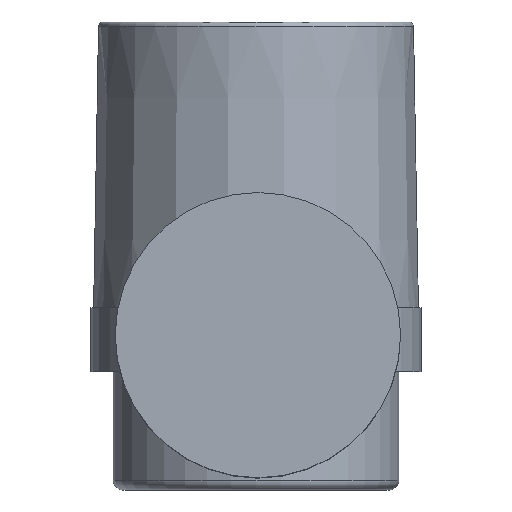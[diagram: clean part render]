
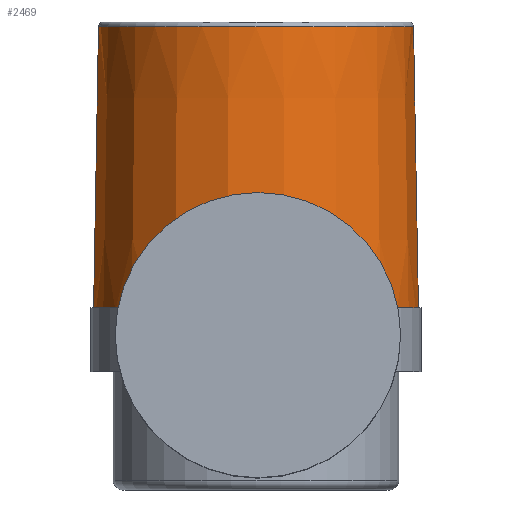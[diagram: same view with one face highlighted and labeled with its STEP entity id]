
A CAD part, front view. The second image highlights one B-rep face of the part: STEP entity #2469.
In plain terms, the highlighted conical face has half-angle 1 degrees and reference radius 33 mm.
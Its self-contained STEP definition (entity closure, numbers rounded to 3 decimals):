
#190 = DIRECTION ( 'NONE',  ( -0.017, 0., -1. ) ) ;
#266 = DIRECTION ( 'NONE',  ( 1., 0., 0. ) ) ;
#317 = LINE ( 'NONE', #649, #2215 ) ;
#428 = ORIENTED_EDGE ( 'NONE', *, *, #456, .T. ) ;
#432 = CONICAL_SURFACE ( 'NONE', #819, 33., 0.017 ) ;
#456 = EDGE_CURVE ( 'NONE', #1311, #1636, #3346, .T. ) ;
#649 = CARTESIAN_POINT ( 'NONE',  ( 33., 74.161, 5.5 ) ) ;
#819 = AXIS2_PLACEMENT_3D ( 'NONE', #2339, #1817, #266 ) ;
#851 = CIRCLE ( 'NONE', #2529, 32.975 ) ;
#861 = EDGE_CURVE ( 'NONE', #1636, #2636, #851, .T. ) ;
#947 = CARTESIAN_POINT ( 'NONE',  ( 31.97, 74.161, 64.517 ) ) ;
#1009 = CARTESIAN_POINT ( 'NONE',  ( -33., 74.161, 5.5 ) ) ;
#1030 = FACE_OUTER_BOUND ( 'NONE', #1686, .T. ) ;
#1038 = ORIENTED_EDGE ( 'NONE', *, *, #1149, .T. ) ;
#1082 = VECTOR ( 'NONE', #190, 1000. ) ;
#1126 = CARTESIAN_POINT ( 'NONE',  ( -31.97, 74.161, 64.517 ) ) ;
#1149 = EDGE_CURVE ( 'NONE', #1940, #1311, #1990, .T. ) ;
#1171 = CARTESIAN_POINT ( 'NONE',  ( 0., 74.161, 64.517 ) ) ;
#1311 = VERTEX_POINT ( 'NONE', #1126 ) ;
#1392 = DIRECTION ( 'NONE',  ( 0., 0., -1. ) ) ;
#1463 = DIRECTION ( 'NONE',  ( 0., 0., 1. ) ) ;
#1498 = CARTESIAN_POINT ( 'NONE',  ( -32.975, 74.161, 6.949 ) ) ;
#1533 = CARTESIAN_POINT ( 'NONE',  ( 0., 74.161, 6.949 ) ) ;
#1636 = VERTEX_POINT ( 'NONE', #1498 ) ;
#1686 = EDGE_LOOP ( 'NONE', ( #1038, #428, #2175, #2403 ) ) ;
#1817 = DIRECTION ( 'NONE',  ( 0., 0., -1. ) ) ;
#1917 = DIRECTION ( 'NONE',  ( 0.017, 0., -1. ) ) ;
#1940 = VERTEX_POINT ( 'NONE', #947 ) ;
#1990 = CIRCLE ( 'NONE', #3083, 31.97 ) ;
#2174 = DIRECTION ( 'NONE',  ( -1., 0., 0. ) ) ;
#2175 = ORIENTED_EDGE ( 'NONE', *, *, #861, .T. ) ;
#2215 = VECTOR ( 'NONE', #1917, 1000. ) ;
#2339 = CARTESIAN_POINT ( 'NONE',  ( 0., 74.161, 5.5 ) ) ;
#2403 = ORIENTED_EDGE ( 'NONE', *, *, #2578, .F. ) ;
#2469 = ADVANCED_FACE ( 'NONE', ( #1030 ), #432, .T. ) ;
#2529 = AXIS2_PLACEMENT_3D ( 'NONE', #1533, #1463, #3031 ) ;
#2578 = EDGE_CURVE ( 'NONE', #1940, #2636, #317, .T. ) ;
#2636 = VERTEX_POINT ( 'NONE', #2678 ) ;
#2678 = CARTESIAN_POINT ( 'NONE',  ( 32.975, 74.161, 6.949 ) ) ;
#3031 = DIRECTION ( 'NONE',  ( 1., 0., 0. ) ) ;
#3083 = AXIS2_PLACEMENT_3D ( 'NONE', #1171, #1392, #2174 ) ;
#3346 = LINE ( 'NONE', #1009, #1082 ) ;
